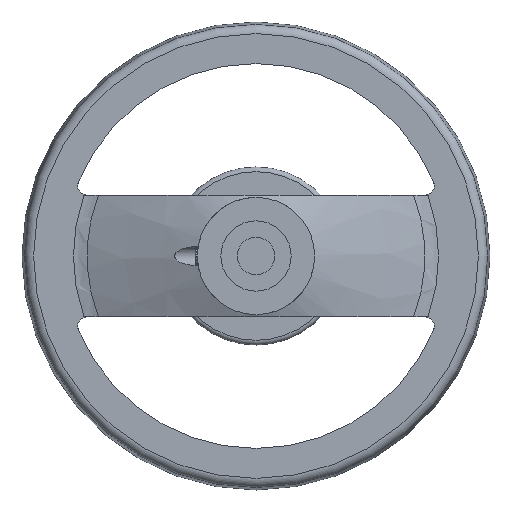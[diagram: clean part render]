
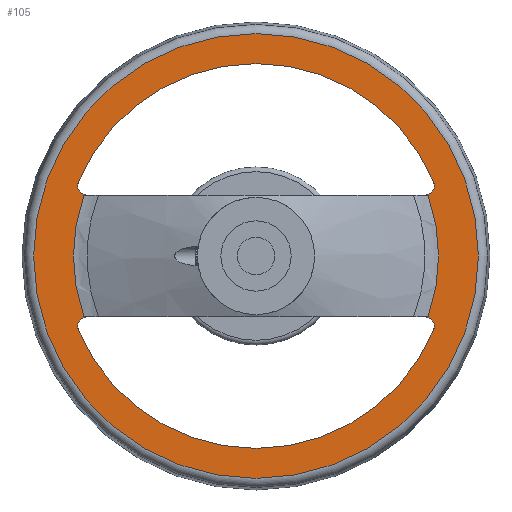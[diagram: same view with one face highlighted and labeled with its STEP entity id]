
A CAD part, left-side view. The second image highlights one B-rep face of the part: STEP entity #105.
In plain terms, the highlighted planar face has unit normal (-1, 0, 0).
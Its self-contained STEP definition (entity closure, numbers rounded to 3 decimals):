
#105 = ADVANCED_FACE( '', ( #214, #215, #216, #217 ), #218, .F. );
#214 = FACE_BOUND( '', #375, .T. );
#215 = FACE_BOUND( '', #376, .T. );
#216 = FACE_OUTER_BOUND( '', #377, .T. );
#217 = FACE_BOUND( '', #378, .T. );
#218 = PLANE( '', #379 );
#375 = EDGE_LOOP( '', ( #652, #653, #654, #655 ) );
#376 = EDGE_LOOP( '', ( #656, #657, #658, #659 ) );
#377 = EDGE_LOOP( '', ( #660 ) );
#378 = EDGE_LOOP( '', ( #661, #662, #663, #664 ) );
#379 = AXIS2_PLACEMENT_3D( '', #665, #666, #667 );
#652 = ORIENTED_EDGE( '', *, *, #921, .F. );
#653 = ORIENTED_EDGE( '', *, *, #865, .F. );
#654 = ORIENTED_EDGE( '', *, *, #869, .F. );
#655 = ORIENTED_EDGE( '', *, *, #922, .F. );
#656 = ORIENTED_EDGE( '', *, *, #909, .F. );
#657 = ORIENTED_EDGE( '', *, *, #923, .F. );
#658 = ORIENTED_EDGE( '', *, *, #889, .F. );
#659 = ORIENTED_EDGE( '', *, *, #884, .F. );
#660 = ORIENTED_EDGE( '', *, *, #924, .T. );
#661 = ORIENTED_EDGE( '', *, *, #900, .F. );
#662 = ORIENTED_EDGE( '', *, *, #904, .F. );
#663 = ORIENTED_EDGE( '', *, *, #906, .F. );
#664 = ORIENTED_EDGE( '', *, *, #907, .F. );
#665 = CARTESIAN_POINT( '', ( 33., -94.9, 0. ) );
#666 = DIRECTION( '', ( 1., 0., 0. ) );
#667 = DIRECTION( '', ( 0., 0., -1. ) );
#865 = EDGE_CURVE( '', #981, #983, #984, .T. );
#869 = EDGE_CURVE( '', #988, #981, #990, .T. );
#884 = EDGE_CURVE( '', #1018, #1019, #1020, .F. );
#889 = EDGE_CURVE( '', #1019, #1028, #1029, .F. );
#900 = EDGE_CURVE( '', #1045, #1047, #1048, .F. );
#904 = EDGE_CURVE( '', #1051, #1045, #1053, .F. );
#906 = EDGE_CURVE( '', #1054, #1051, #1056, .F. );
#907 = EDGE_CURVE( '', #1047, #1054, #1057, .T. );
#909 = EDGE_CURVE( '', #1058, #1018, #1060, .F. );
#921 = EDGE_CURVE( '', #983, #1079, #1080, .T. );
#922 = EDGE_CURVE( '', #1079, #988, #1081, .T. );
#923 = EDGE_CURVE( '', #1028, #1058, #1082, .T. );
#924 = EDGE_CURVE( '', #1083, #1083, #1084, .T. );
#981 = VERTEX_POINT( '', #1237 );
#983 = VERTEX_POINT( '', #1246 );
#984 = LINE( '', #1247, #1248 );
#988 = VERTEX_POINT( '', #1261 );
#990 = CIRCLE( '', #1270, 77.924 );
#1018 = VERTEX_POINT( '', #1339 );
#1019 = VERTEX_POINT( '', #1340 );
#1020 = CIRCLE( '', #1341, 82.1 );
#1028 = VERTEX_POINT( '', #1372 );
#1029 = CIRCLE( '', #1373, 4. );
#1045 = VERTEX_POINT( '', #1507 );
#1047 = VERTEX_POINT( '', #1510 );
#1048 = CIRCLE( '', #1511, 4. );
#1051 = VERTEX_POINT( '', #1515 );
#1053 = CIRCLE( '', #1518, 82.1 );
#1054 = VERTEX_POINT( '', #1519 );
#1056 = CIRCLE( '', #1522, 4. );
#1057 = LINE( '', #1523, #1524 );
#1058 = VERTEX_POINT( '', #1525 );
#1060 = CIRCLE( '', #1528, 4. );
#1079 = VERTEX_POINT( '', #1648 );
#1080 = CIRCLE( '', #1649, 77.924 );
#1081 = LINE( '', #1650, #1651 );
#1082 = LINE( '', #1652, #1653 );
#1083 = VERTEX_POINT( '', #1654 );
#1084 = CIRCLE( '', #1655, 94.9 );
#1237 = CARTESIAN_POINT( '', ( 33., 73.459, -25.999 ) );
#1246 = CARTESIAN_POINT( '', ( 33., -73.459, -25.999 ) );
#1247 = CARTESIAN_POINT( '', ( 33., 200., -25.999 ) );
#1248 = VECTOR( '', #1762, 1000. );
#1261 = CARTESIAN_POINT( '', ( 33., 73.459, 25.999 ) );
#1270 = AXIS2_PLACEMENT_3D( '', #1766, #1767, #1768 );
#1339 = CARTESIAN_POINT( '', ( 33., 75.801, -31.536 ) );
#1340 = CARTESIAN_POINT( '', ( 33., -75.801, -31.536 ) );
#1341 = AXIS2_PLACEMENT_3D( '', #1802, #1803, #1804 );
#1372 = CARTESIAN_POINT( '', ( 33., -72.108, -26. ) );
#1373 = AXIS2_PLACEMENT_3D( '', #1810, #1811, #1812 );
#1507 = CARTESIAN_POINT( '', ( 33., 75.801, 31.536 ) );
#1510 = CARTESIAN_POINT( '', ( 33., 72.108, 26. ) );
#1511 = AXIS2_PLACEMENT_3D( '', #1824, #1825, #1826 );
#1515 = CARTESIAN_POINT( '', ( 33., -75.801, 31.536 ) );
#1518 = AXIS2_PLACEMENT_3D( '', #1832, #1833, #1834 );
#1519 = CARTESIAN_POINT( '', ( 33., -72.108, 26. ) );
#1522 = AXIS2_PLACEMENT_3D( '', #1836, #1837, #1838 );
#1523 = CARTESIAN_POINT( '', ( 33., -94.9, 26. ) );
#1524 = VECTOR( '', #1839, 1000. );
#1525 = CARTESIAN_POINT( '', ( 33., 72.108, -26. ) );
#1528 = AXIS2_PLACEMENT_3D( '', #1841, #1842, #1843 );
#1648 = CARTESIAN_POINT( '', ( 33., -73.459, 25.999 ) );
#1649 = AXIS2_PLACEMENT_3D( '', #1862, #1863, #1864 );
#1650 = CARTESIAN_POINT( '', ( 33., -200., 25.999 ) );
#1651 = VECTOR( '', #1865, 1000. );
#1652 = CARTESIAN_POINT( '', ( 33., -94.9, -26. ) );
#1653 = VECTOR( '', #1866, 1000. );
#1654 = CARTESIAN_POINT( '', ( 33., 0., 94.9 ) );
#1655 = AXIS2_PLACEMENT_3D( '', #1867, #1868, #1869 );
#1762 = DIRECTION( '', ( 0., -1., 0. ) );
#1766 = CARTESIAN_POINT( '', ( 33., 0., 0. ) );
#1767 = DIRECTION( '', ( -1., 0., 0. ) );
#1768 = DIRECTION( '', ( 0., 0., 1. ) );
#1802 = CARTESIAN_POINT( '', ( 33., 0., 0. ) );
#1803 = DIRECTION( '', ( 1., 0., 0. ) );
#1804 = DIRECTION( '', ( 0., 0., -1. ) );
#1810 = CARTESIAN_POINT( '', ( 33., -72.108, -30. ) );
#1811 = DIRECTION( '', ( 1., 0., 0. ) );
#1812 = DIRECTION( '', ( 0., 0., -1. ) );
#1824 = CARTESIAN_POINT( '', ( 33., 72.108, 30. ) );
#1825 = DIRECTION( '', ( 1., 0., 0. ) );
#1826 = DIRECTION( '', ( 0., 0., -1. ) );
#1832 = CARTESIAN_POINT( '', ( 33., 0., 0. ) );
#1833 = DIRECTION( '', ( 1., 0., 0. ) );
#1834 = DIRECTION( '', ( 0., 0., -1. ) );
#1836 = CARTESIAN_POINT( '', ( 33., -72.108, 30. ) );
#1837 = DIRECTION( '', ( 1., 0., 0. ) );
#1838 = DIRECTION( '', ( 0., 0., -1. ) );
#1839 = DIRECTION( '', ( 0., -1., 0. ) );
#1841 = CARTESIAN_POINT( '', ( 33., 72.108, -30. ) );
#1842 = DIRECTION( '', ( 1., 0., 0. ) );
#1843 = DIRECTION( '', ( 0., 0., -1. ) );
#1862 = CARTESIAN_POINT( '', ( 33., 0., 0. ) );
#1863 = DIRECTION( '', ( -1., 0., 0. ) );
#1864 = DIRECTION( '', ( 0., 0., 1. ) );
#1865 = DIRECTION( '', ( 0., 1., 0. ) );
#1866 = DIRECTION( '', ( 0., 1., 0. ) );
#1867 = CARTESIAN_POINT( '', ( 33., 0., 0. ) );
#1868 = DIRECTION( '', ( -1., 0., 0. ) );
#1869 = DIRECTION( '', ( 0., 0., 1. ) );
